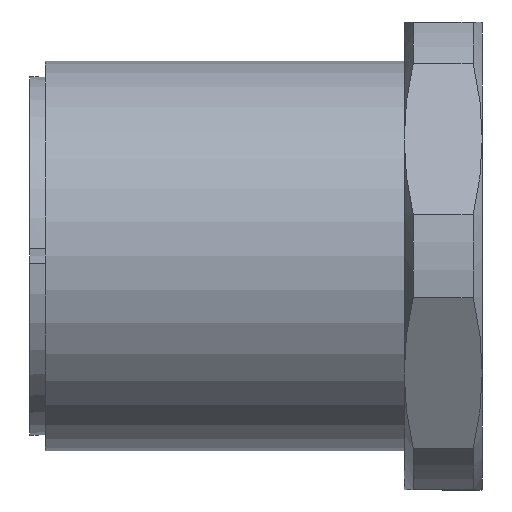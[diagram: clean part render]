
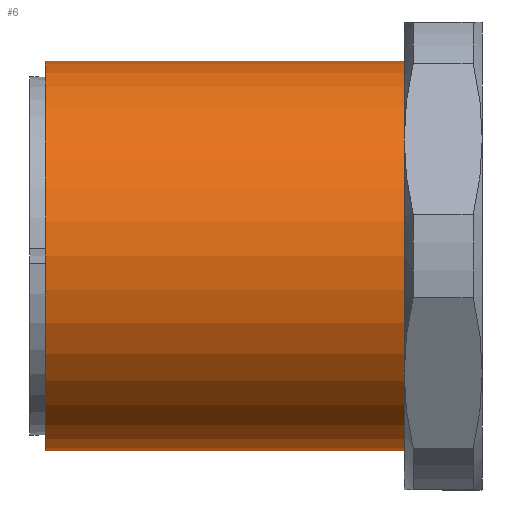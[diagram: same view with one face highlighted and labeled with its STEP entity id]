
A CAD part, front view. The second image highlights one B-rep face of the part: STEP entity #6.
In plain terms, the highlighted cylindrical face has radius 12.5 mm (diameter 25 mm), a partial arc.
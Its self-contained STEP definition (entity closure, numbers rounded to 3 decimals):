
#6 = ADVANCED_FACE ( 'NONE', ( #1046 ), #1267, .T. ) ;
#48 = VERTEX_POINT ( 'NONE', #302 ) ;
#83 = DIRECTION ( 'NONE',  ( -1., 0., 0. ) ) ;
#98 = CARTESIAN_POINT ( 'NONE',  ( 0., 0., 0. ) ) ;
#142 = VERTEX_POINT ( 'NONE', #242 ) ;
#170 = VERTEX_POINT ( 'NONE', #259 ) ;
#237 = DIRECTION ( 'NONE',  ( -1., 0., 0. ) ) ;
#240 = DIRECTION ( 'NONE',  ( 0., 0., 1. ) ) ;
#242 = CARTESIAN_POINT ( 'NONE',  ( 0., 0., -12.5 ) ) ;
#259 = CARTESIAN_POINT ( 'NONE',  ( 23., 0., 12.5 ) ) ;
#296 = CARTESIAN_POINT ( 'NONE',  ( 0., 0., 0. ) ) ;
#302 = CARTESIAN_POINT ( 'NONE',  ( 0., 0., 12.5 ) ) ;
#318 = DIRECTION ( 'NONE',  ( -1., 0., 0. ) ) ;
#320 = CARTESIAN_POINT ( 'NONE',  ( 0., 0., 12.5 ) ) ;
#324 = DIRECTION ( 'NONE',  ( 0., 0., 1. ) ) ;
#342 = DIRECTION ( 'NONE',  ( -1., 0., 0. ) ) ;
#357 = CARTESIAN_POINT ( 'NONE',  ( 23., 0., 0. ) ) ;
#404 = CARTESIAN_POINT ( 'NONE',  ( 23., 0., -12.5 ) ) ;
#420 = CARTESIAN_POINT ( 'NONE',  ( 0., 0., -12.5 ) ) ;
#429 = DIRECTION ( 'NONE',  ( -1., 0., 0. ) ) ;
#455 = DIRECTION ( 'NONE',  ( 0., 0., 1. ) ) ;
#547 = VERTEX_POINT ( 'NONE', #404 ) ;
#793 = CIRCLE ( 'NONE', #1522, 12.5 ) ;
#805 = LINE ( 'NONE', #320, #806 ) ;
#806 = VECTOR ( 'NONE', #318, 1000. ) ;
#845 = VECTOR ( 'NONE', #429, 1000. ) ;
#851 = LINE ( 'NONE', #420, #845 ) ;
#938 = EDGE_LOOP ( 'NONE', ( #1107, #1193, #1128, #1099 ) ) ;
#1001 = CIRCLE ( 'NONE', #1361, 12.5 ) ;
#1046 = FACE_OUTER_BOUND ( 'NONE', #938, .T. ) ;
#1099 = ORIENTED_EDGE ( 'NONE', *, *, #1558, .F. ) ;
#1107 = ORIENTED_EDGE ( 'NONE', *, *, #1435, .F. ) ;
#1128 = ORIENTED_EDGE ( 'NONE', *, *, #1547, .T. ) ;
#1193 = ORIENTED_EDGE ( 'NONE', *, *, #1356, .T. ) ;
#1267 = CYLINDRICAL_SURFACE ( 'NONE', #1521, 12.5 ) ;
#1356 = EDGE_CURVE ( 'NONE', #547, #170, #1001, .T. ) ;
#1361 = AXIS2_PLACEMENT_3D ( 'NONE', #357, #342, #324 ) ;
#1435 = EDGE_CURVE ( 'NONE', #547, #142, #851, .T. ) ;
#1521 = AXIS2_PLACEMENT_3D ( 'NONE', #98, #83, #455 ) ;
#1522 = AXIS2_PLACEMENT_3D ( 'NONE', #296, #237, #240 ) ;
#1547 = EDGE_CURVE ( 'NONE', #170, #48, #805, .T. ) ;
#1558 = EDGE_CURVE ( 'NONE', #142, #48, #793, .T. ) ;
